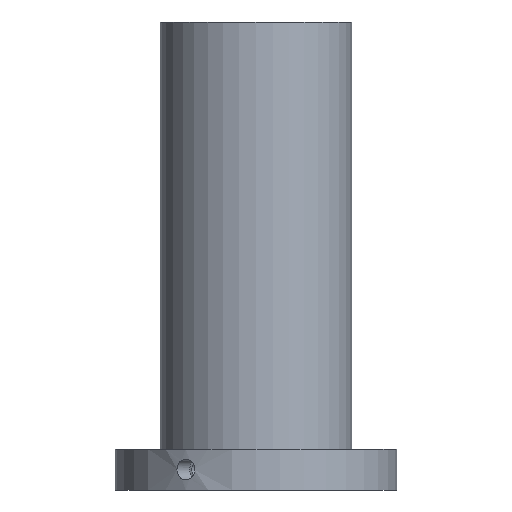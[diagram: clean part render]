
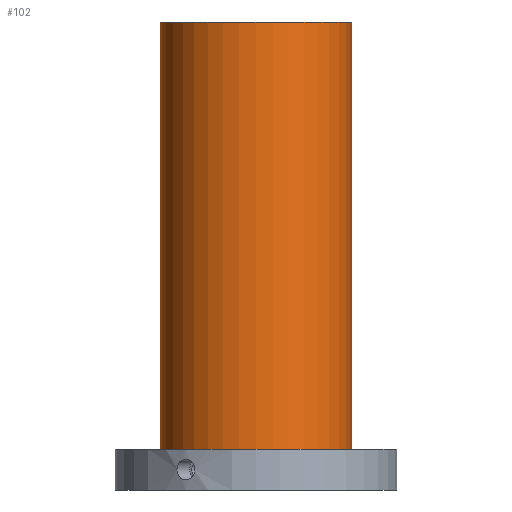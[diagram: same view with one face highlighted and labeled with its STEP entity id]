
A CAD part, front view. The second image highlights one B-rep face of the part: STEP entity #102.
In plain terms, the highlighted cylindrical face has radius 37.5 mm (diameter 75 mm), a full revolution.
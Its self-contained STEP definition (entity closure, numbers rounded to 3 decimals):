
#102=ADVANCED_FACE('',(#136,#137),#119,.T.);
#119=CYLINDRICAL_SURFACE('',#371,37.5);
#136=FACE_BOUND('',#188,.T.);
#137=FACE_BOUND('',#189,.T.);
#188=EDGE_LOOP('',(#240));
#189=EDGE_LOOP('',(#241));
#240=ORIENTED_EDGE('',*,*,#318,.F.);
#241=ORIENTED_EDGE('',*,*,#319,.T.);
#292=VERTEX_POINT('',#557);
#293=VERTEX_POINT('',#559);
#318=EDGE_CURVE('',#292,#292,#343,.T.);
#319=EDGE_CURVE('',#293,#293,#344,.T.);
#343=CIRCLE('',#369,37.5);
#344=CIRCLE('',#370,37.5);
#369=AXIS2_PLACEMENT_3D('',#556,#415,#416);
#370=AXIS2_PLACEMENT_3D('',#558,#417,#418);
#371=AXIS2_PLACEMENT_3D('',#560,#419,#420);
#415=DIRECTION('',(0.,0.,-1.));
#416=DIRECTION('',(1.,0.,0.));
#417=DIRECTION('',(0.,0.,-1.));
#418=DIRECTION('',(1.,0.,0.));
#419=DIRECTION('',(0.,0.,-1.));
#420=DIRECTION('',(-1.,0.,0.));
#556=CARTESIAN_POINT('',(0.,0.,16.));
#557=CARTESIAN_POINT('',(37.5,0.,16.));
#558=CARTESIAN_POINT('',(0.,0.,183.));
#559=CARTESIAN_POINT('',(37.5,0.,183.));
#560=CARTESIAN_POINT('',(0.,0.,183.));
